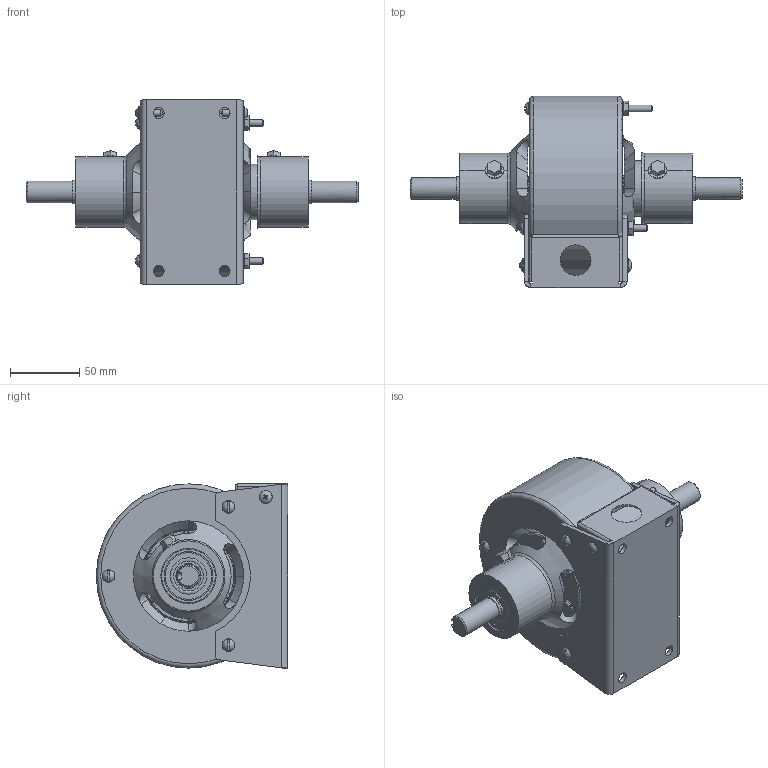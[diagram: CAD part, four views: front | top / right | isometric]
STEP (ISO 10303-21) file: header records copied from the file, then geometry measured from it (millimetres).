
FILE_DESCRIPTION(/* description */ ('STEP AP214'),/* implementation_level */ '2;1');
FILE_NAME(/* name */ '5MC90B_stp.step',/* time_stamp */ '2026-05-12T14:40:10-05:00',/* author */ (''),/* organization */ (''),/* preprocessor_version */ 'ST-DEVELOPER v20.1',/* originating_system */ 'Autodesk Translation Framework v15.8.0.0',/* authorisation */ '');
FILE_SCHEMA (('AUTOMOTIVE_DESIGN { 1 0 10303 214 3 1 1 }'));
Length unit declared in the file: inch
Products named in the file (1): 5MC90B_asm_stp
Bounding box: 240.22 x 138.41 x 133.35 mm (x, y, z)
Volume: 762806.6 mm3; surface area: 262019.1 mm2
Topology: 2 solids, 5 shells, 741 faces, 1777 edges, 1096 vertices
Faces by surface type: plane 245, cylinder 220, bspline 184, torus 56, cone 31, sphere 5
Full cylindrical faces by diameter (mm): 4.826 x8, 5.16 x3, 5.537 x2, 6.35 x2, 7.938 x4, 9.119 x3, 9.474 x2, 13.208 x2, 15.875 x4, 16.002 x3, 16.967 x2, 16.993 x3, 17 x1, 17.005 x4, 17.043 x1, 19.05 x1, 21.6 x8, 22.225 x1, 29.21 x1, 33.79 x4, 35.4 x8, 39.997 x4, 58.725 x1, 61.112 x1, 62.586 x1, 65.786 x1, 67.31 x3, 67.996 x1, 68.224 x1, 85.725 x2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
Entity records: 29412 total; most frequent: CARTESIAN_POINT 12991, ORIENTED_EDGE 3554, DIRECTION 3233, EDGE_CURVE 1777, AXIS2_PLACEMENT_3D 1316, VERTEX_POINT 1096, EDGE_LOOP 851, FACE_OUTER_BOUND 741
